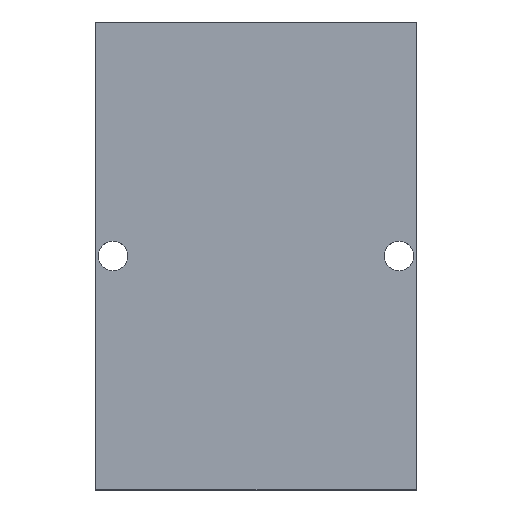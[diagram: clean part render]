
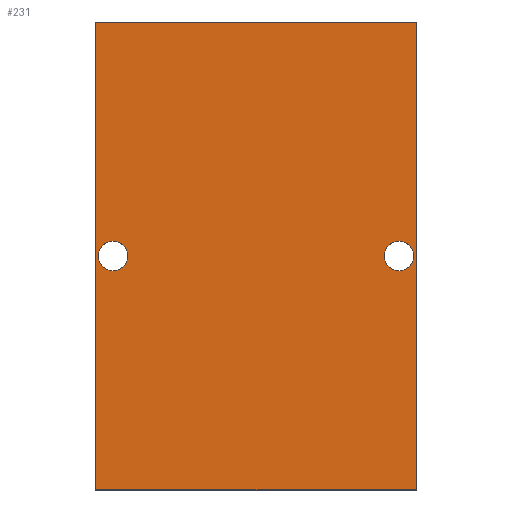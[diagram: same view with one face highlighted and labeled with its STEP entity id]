
A CAD part, top view. The second image highlights one B-rep face of the part: STEP entity #231.
In plain terms, the highlighted planar face has unit normal (0, 0, 1).
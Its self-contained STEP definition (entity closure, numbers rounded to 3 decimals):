
#42 = VERTEX_POINT('',#43);
#43 = CARTESIAN_POINT('',(-18.5,-27.,2.5));
#50 = PLANE('',#51);
#51 = AXIS2_PLACEMENT_3D('',#52,#53,#54);
#52 = CARTESIAN_POINT('',(-18.5,-27.,-2.5));
#53 = DIRECTION('',(1.,0.,-0.));
#54 = DIRECTION('',(0.,0.,1.));
#62 = PLANE('',#63);
#63 = AXIS2_PLACEMENT_3D('',#64,#65,#66);
#64 = CARTESIAN_POINT('',(-18.5,-27.,-2.5));
#65 = DIRECTION('',(-0.,1.,0.));
#66 = DIRECTION('',(0.,0.,1.));
#103 = VERTEX_POINT('',#104);
#104 = CARTESIAN_POINT('',(-18.5,27.,2.5));
#118 = PLANE('',#119);
#119 = AXIS2_PLACEMENT_3D('',#120,#121,#122);
#120 = CARTESIAN_POINT('',(-18.5,27.,-2.5));
#121 = DIRECTION('',(-0.,1.,0.));
#122 = DIRECTION('',(0.,0.,1.));
#130 = EDGE_CURVE('',#42,#103,#131,.T.);
#131 = SURFACE_CURVE('',#132,(#136,#143),.PCURVE_S1.);
#132 = LINE('',#133,#134);
#133 = CARTESIAN_POINT('',(-18.5,-27.,2.5));
#134 = VECTOR('',#135,1.);
#135 = DIRECTION('',(-0.,1.,0.));
#136 = PCURVE('',#50,#137);
#137 = DEFINITIONAL_REPRESENTATION('',(#138),#142);
#138 = LINE('',#139,#140);
#139 = CARTESIAN_POINT('',(5.,0.));
#140 = VECTOR('',#141,1.);
#141 = DIRECTION('',(0.,-1.));
#142 = ( GEOMETRIC_REPRESENTATION_CONTEXT(2) 
PARAMETRIC_REPRESENTATION_CONTEXT() REPRESENTATION_CONTEXT('2D SPACE',''
  ) );
#143 = PCURVE('',#144,#149);
#144 = PLANE('',#145);
#145 = AXIS2_PLACEMENT_3D('',#146,#147,#148);
#146 = CARTESIAN_POINT('',(-18.5,-27.,2.5));
#147 = DIRECTION('',(0.,0.,1.));
#148 = DIRECTION('',(1.,0.,-0.));
#149 = DEFINITIONAL_REPRESENTATION('',(#150),#154);
#150 = LINE('',#151,#152);
#151 = CARTESIAN_POINT('',(0.,0.));
#152 = VECTOR('',#153,1.);
#153 = DIRECTION('',(0.,1.));
#154 = ( GEOMETRIC_REPRESENTATION_CONTEXT(2) 
PARAMETRIC_REPRESENTATION_CONTEXT() REPRESENTATION_CONTEXT('2D SPACE',''
  ) );
#183 = EDGE_CURVE('',#42,#184,#186,.T.);
#184 = VERTEX_POINT('',#185);
#185 = CARTESIAN_POINT('',(18.5,-27.,2.5));
#186 = SURFACE_CURVE('',#187,(#191,#198),.PCURVE_S1.);
#187 = LINE('',#188,#189);
#188 = CARTESIAN_POINT('',(-18.5,-27.,2.5));
#189 = VECTOR('',#190,1.);
#190 = DIRECTION('',(1.,0.,-0.));
#191 = PCURVE('',#62,#192);
#192 = DEFINITIONAL_REPRESENTATION('',(#193),#197);
#193 = LINE('',#194,#195);
#194 = CARTESIAN_POINT('',(5.,0.));
#195 = VECTOR('',#196,1.);
#196 = DIRECTION('',(0.,1.));
#197 = ( GEOMETRIC_REPRESENTATION_CONTEXT(2) 
PARAMETRIC_REPRESENTATION_CONTEXT() REPRESENTATION_CONTEXT('2D SPACE',''
  ) );
#198 = PCURVE('',#144,#199);
#199 = DEFINITIONAL_REPRESENTATION('',(#200),#204);
#200 = LINE('',#201,#202);
#201 = CARTESIAN_POINT('',(0.,0.));
#202 = VECTOR('',#203,1.);
#203 = DIRECTION('',(1.,0.));
#204 = ( GEOMETRIC_REPRESENTATION_CONTEXT(2) 
PARAMETRIC_REPRESENTATION_CONTEXT() REPRESENTATION_CONTEXT('2D SPACE',''
  ) );
#220 = PLANE('',#221);
#221 = AXIS2_PLACEMENT_3D('',#222,#223,#224);
#222 = CARTESIAN_POINT('',(18.5,-27.,-2.5));
#223 = DIRECTION('',(1.,0.,-0.));
#224 = DIRECTION('',(0.,0.,1.));
#231 = ADVANCED_FACE('',(#232,#280,#311),#144,.T.);
#232 = FACE_BOUND('',#233,.T.);
#233 = EDGE_LOOP('',(#234,#235,#236,#259));
#234 = ORIENTED_EDGE('',*,*,#130,.F.);
#235 = ORIENTED_EDGE('',*,*,#183,.T.);
#236 = ORIENTED_EDGE('',*,*,#237,.T.);
#237 = EDGE_CURVE('',#184,#238,#240,.T.);
#238 = VERTEX_POINT('',#239);
#239 = CARTESIAN_POINT('',(18.5,27.,2.5));
#240 = SURFACE_CURVE('',#241,(#245,#252),.PCURVE_S1.);
#241 = LINE('',#242,#243);
#242 = CARTESIAN_POINT('',(18.5,-27.,2.5));
#243 = VECTOR('',#244,1.);
#244 = DIRECTION('',(-0.,1.,0.));
#245 = PCURVE('',#144,#246);
#246 = DEFINITIONAL_REPRESENTATION('',(#247),#251);
#247 = LINE('',#248,#249);
#248 = CARTESIAN_POINT('',(37.,0.));
#249 = VECTOR('',#250,1.);
#250 = DIRECTION('',(0.,1.));
#251 = ( GEOMETRIC_REPRESENTATION_CONTEXT(2) 
PARAMETRIC_REPRESENTATION_CONTEXT() REPRESENTATION_CONTEXT('2D SPACE',''
  ) );
#252 = PCURVE('',#220,#253);
#253 = DEFINITIONAL_REPRESENTATION('',(#254),#258);
#254 = LINE('',#255,#256);
#255 = CARTESIAN_POINT('',(5.,0.));
#256 = VECTOR('',#257,1.);
#257 = DIRECTION('',(0.,-1.));
#258 = ( GEOMETRIC_REPRESENTATION_CONTEXT(2) 
PARAMETRIC_REPRESENTATION_CONTEXT() REPRESENTATION_CONTEXT('2D SPACE',''
  ) );
#259 = ORIENTED_EDGE('',*,*,#260,.F.);
#260 = EDGE_CURVE('',#103,#238,#261,.T.);
#261 = SURFACE_CURVE('',#262,(#266,#273),.PCURVE_S1.);
#262 = LINE('',#263,#264);
#263 = CARTESIAN_POINT('',(-18.5,27.,2.5));
#264 = VECTOR('',#265,1.);
#265 = DIRECTION('',(1.,0.,-0.));
#266 = PCURVE('',#144,#267);
#267 = DEFINITIONAL_REPRESENTATION('',(#268),#272);
#268 = LINE('',#269,#270);
#269 = CARTESIAN_POINT('',(0.,54.));
#270 = VECTOR('',#271,1.);
#271 = DIRECTION('',(1.,0.));
#272 = ( GEOMETRIC_REPRESENTATION_CONTEXT(2) 
PARAMETRIC_REPRESENTATION_CONTEXT() REPRESENTATION_CONTEXT('2D SPACE',''
  ) );
#273 = PCURVE('',#118,#274);
#274 = DEFINITIONAL_REPRESENTATION('',(#275),#279);
#275 = LINE('',#276,#277);
#276 = CARTESIAN_POINT('',(5.,0.));
#277 = VECTOR('',#278,1.);
#278 = DIRECTION('',(0.,1.));
#279 = ( GEOMETRIC_REPRESENTATION_CONTEXT(2) 
PARAMETRIC_REPRESENTATION_CONTEXT() REPRESENTATION_CONTEXT('2D SPACE',''
  ) );
#280 = FACE_BOUND('',#281,.T.);
#281 = EDGE_LOOP('',(#282));
#282 = ORIENTED_EDGE('',*,*,#283,.F.);
#283 = EDGE_CURVE('',#284,#284,#286,.T.);
#284 = VERTEX_POINT('',#285);
#285 = CARTESIAN_POINT('',(-14.8,0.,2.5));
#286 = SURFACE_CURVE('',#287,(#292,#299),.PCURVE_S1.);
#287 = CIRCLE('',#288,1.7);
#288 = AXIS2_PLACEMENT_3D('',#289,#290,#291);
#289 = CARTESIAN_POINT('',(-16.5,0.,2.5));
#290 = DIRECTION('',(0.,0.,1.));
#291 = DIRECTION('',(1.,0.,-0.));
#292 = PCURVE('',#144,#293);
#293 = DEFINITIONAL_REPRESENTATION('',(#294),#298);
#294 = CIRCLE('',#295,1.7);
#295 = AXIS2_PLACEMENT_2D('',#296,#297);
#296 = CARTESIAN_POINT('',(2.,27.));
#297 = DIRECTION('',(1.,0.));
#298 = ( GEOMETRIC_REPRESENTATION_CONTEXT(2) 
PARAMETRIC_REPRESENTATION_CONTEXT() REPRESENTATION_CONTEXT('2D SPACE',''
  ) );
#299 = PCURVE('',#300,#305);
#300 = CYLINDRICAL_SURFACE('',#301,1.7);
#301 = AXIS2_PLACEMENT_3D('',#302,#303,#304);
#302 = CARTESIAN_POINT('',(-16.5,0.,-4.));
#303 = DIRECTION('',(0.,0.,1.));
#304 = DIRECTION('',(1.,0.,0.));
#305 = DEFINITIONAL_REPRESENTATION('',(#306),#310);
#306 = LINE('',#307,#308);
#307 = CARTESIAN_POINT('',(0.,6.5));
#308 = VECTOR('',#309,1.);
#309 = DIRECTION('',(1.,0.));
#310 = ( GEOMETRIC_REPRESENTATION_CONTEXT(2) 
PARAMETRIC_REPRESENTATION_CONTEXT() REPRESENTATION_CONTEXT('2D SPACE',''
  ) );
#311 = FACE_BOUND('',#312,.T.);
#312 = EDGE_LOOP('',(#313));
#313 = ORIENTED_EDGE('',*,*,#314,.F.);
#314 = EDGE_CURVE('',#315,#315,#317,.T.);
#315 = VERTEX_POINT('',#316);
#316 = CARTESIAN_POINT('',(18.2,0.,2.5));
#317 = SURFACE_CURVE('',#318,(#323,#330),.PCURVE_S1.);
#318 = CIRCLE('',#319,1.7);
#319 = AXIS2_PLACEMENT_3D('',#320,#321,#322);
#320 = CARTESIAN_POINT('',(16.5,0.,2.5));
#321 = DIRECTION('',(0.,0.,1.));
#322 = DIRECTION('',(1.,0.,-0.));
#323 = PCURVE('',#144,#324);
#324 = DEFINITIONAL_REPRESENTATION('',(#325),#329);
#325 = CIRCLE('',#326,1.7);
#326 = AXIS2_PLACEMENT_2D('',#327,#328);
#327 = CARTESIAN_POINT('',(35.,27.));
#328 = DIRECTION('',(1.,0.));
#329 = ( GEOMETRIC_REPRESENTATION_CONTEXT(2) 
PARAMETRIC_REPRESENTATION_CONTEXT() REPRESENTATION_CONTEXT('2D SPACE',''
  ) );
#330 = PCURVE('',#331,#336);
#331 = CYLINDRICAL_SURFACE('',#332,1.7);
#332 = AXIS2_PLACEMENT_3D('',#333,#334,#335);
#333 = CARTESIAN_POINT('',(16.5,0.,-4.));
#334 = DIRECTION('',(0.,0.,1.));
#335 = DIRECTION('',(1.,0.,0.));
#336 = DEFINITIONAL_REPRESENTATION('',(#337),#341);
#337 = LINE('',#338,#339);
#338 = CARTESIAN_POINT('',(0.,6.5));
#339 = VECTOR('',#340,1.);
#340 = DIRECTION('',(1.,0.));
#341 = ( GEOMETRIC_REPRESENTATION_CONTEXT(2) 
PARAMETRIC_REPRESENTATION_CONTEXT() REPRESENTATION_CONTEXT('2D SPACE',''
  ) );
